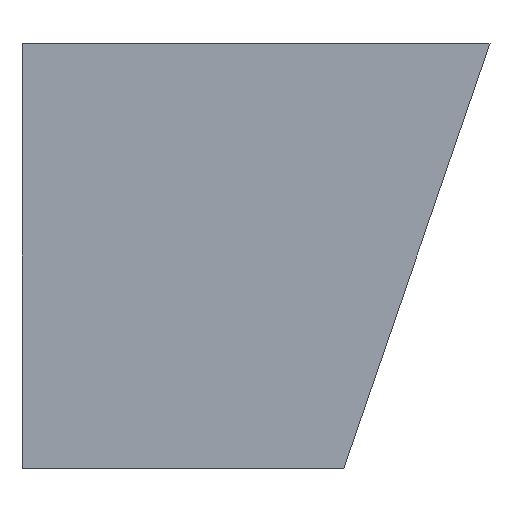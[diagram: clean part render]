
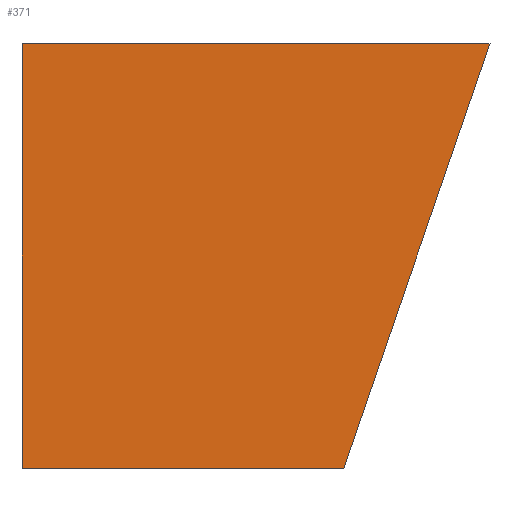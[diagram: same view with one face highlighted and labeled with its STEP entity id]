
A CAD part, front view. The second image highlights one B-rep face of the part: STEP entity #371.
In plain terms, the highlighted planar face has unit normal (0, -1, 0).
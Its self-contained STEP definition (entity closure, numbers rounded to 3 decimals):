
#57=FACE_OUTER_BOUND('',#80,.T.);
#80=EDGE_LOOP('',(#334,#335,#336,#337));
#110=LINE('',#614,#148);
#114=LINE('',#629,#152);
#117=LINE('',#633,#155);
#118=LINE('',#635,#156);
#148=VECTOR('',#505,10.);
#152=VECTOR('',#523,10.);
#155=VECTOR('',#528,10.);
#156=VECTOR('',#531,10.);
#182=VERTEX_POINT('',#611);
#183=VERTEX_POINT('',#613);
#186=VERTEX_POINT('',#627);
#187=VERTEX_POINT('',#628);
#227=EDGE_CURVE('',#182,#183,#110,.T.);
#233=EDGE_CURVE('',#186,#187,#114,.T.);
#236=EDGE_CURVE('',#183,#186,#117,.T.);
#237=EDGE_CURVE('',#187,#182,#118,.T.);
#334=ORIENTED_EDGE('',*,*,#236,.F.);
#335=ORIENTED_EDGE('',*,*,#227,.F.);
#336=ORIENTED_EDGE('',*,*,#237,.F.);
#337=ORIENTED_EDGE('',*,*,#233,.F.);
#350=PLANE('',#427);
#371=ADVANCED_FACE('',(#57),#350,.F.);
#427=AXIS2_PLACEMENT_3D('',#636,#532,#533);
#505=DIRECTION('',(1.,0.,0.));
#523=DIRECTION('',(-1.,0.,0.));
#528=DIRECTION('',(-0.326,0.,-0.945));
#531=DIRECTION('',(0.,0.,1.));
#532=DIRECTION('center_axis',(0.,1.,0.));
#533=DIRECTION('ref_axis',(0.,0.,1.));
#611=CARTESIAN_POINT('',(-234.714,0.,22.144));
#613=CARTESIAN_POINT('',(-74.714,0.,22.144));
#614=CARTESIAN_POINT('',(-234.714,0.,22.144));
#627=CARTESIAN_POINT('',(-124.714,0.,-122.856));
#628=CARTESIAN_POINT('',(-234.714,0.,-122.856));
#629=CARTESIAN_POINT('',(-124.714,0.,-122.856));
#633=CARTESIAN_POINT('',(-74.714,0.,22.144));
#635=CARTESIAN_POINT('',(-234.714,0.,-122.856));
#636=CARTESIAN_POINT('Origin',(-154.714,0.,-50.356));
